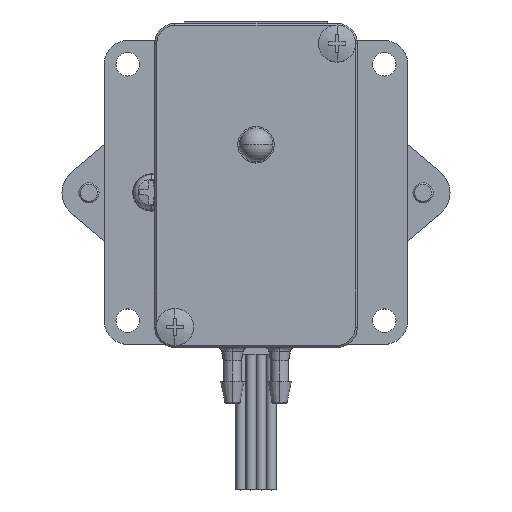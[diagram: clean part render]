
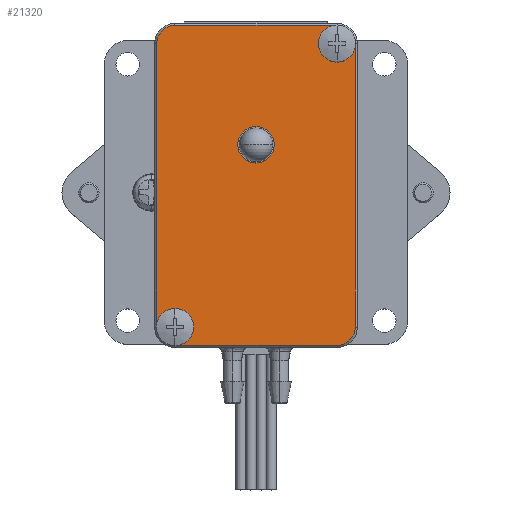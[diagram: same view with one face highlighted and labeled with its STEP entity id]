
A CAD part, top view. The second image highlights one B-rep face of the part: STEP entity #21320.
In plain terms, the highlighted planar face has unit normal (0, 0, 1).
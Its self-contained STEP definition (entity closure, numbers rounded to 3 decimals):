
#337 = CARTESIAN_POINT ( 'NONE',  ( 0., 0., 2.5 ) ) ;
#360 = DIRECTION ( 'NONE',  ( 1., 0., 0. ) ) ;
#534 = CARTESIAN_POINT ( 'NONE',  ( -14.7, -27., 2.5 ) ) ;
#600 = EDGE_CURVE ( 'NONE', #14971, #11288, #13889, .T. ) ;
#751 = CARTESIAN_POINT ( 'NONE',  ( -12., 17.7, 2.5 ) ) ;
#869 = VERTEX_POINT ( 'NONE', #12155 ) ;
#934 = EDGE_CURVE ( 'NONE', #19398, #19901, #15445, .T. ) ;
#949 = VECTOR ( 'NONE', #5242, 1000. ) ;
#1149 = ORIENTED_EDGE ( 'NONE', *, *, #5996, .T. ) ;
#1234 = DIRECTION ( 'NONE',  ( -1., 0., 0. ) ) ;
#1891 = CARTESIAN_POINT ( 'NONE',  ( 10.5, 15., 2.5 ) ) ;
#1987 = CARTESIAN_POINT ( 'NONE',  ( 12., -27., 2.5 ) ) ;
#2036 = ORIENTED_EDGE ( 'NONE', *, *, #11757, .T. ) ;
#2075 = LINE ( 'NONE', #2774, #5547 ) ;
#2191 = CIRCLE ( 'NONE', #12695, 2.7 ) ;
#2326 = DIRECTION ( 'NONE',  ( 0., 0., 1. ) ) ;
#2398 = DIRECTION ( 'NONE',  ( 0., 0., 1. ) ) ;
#2599 = VERTEX_POINT ( 'NONE', #15514 ) ;
#2681 = CARTESIAN_POINT ( 'NONE',  ( -12., -27., 2.5 ) ) ;
#2774 = CARTESIAN_POINT ( 'NONE',  ( -14.7, -27., 2.5 ) ) ;
#3337 = CARTESIAN_POINT ( 'NONE',  ( 12., 17.7, 2.5 ) ) ;
#3846 = AXIS2_PLACEMENT_3D ( 'NONE', #5703, #18814, #360 ) ;
#3893 = DIRECTION ( 'NONE',  ( 0., 0., 1. ) ) ;
#4767 = EDGE_CURVE ( 'NONE', #11288, #5577, #2075, .T. ) ;
#4947 = CARTESIAN_POINT ( 'NONE',  ( 0., 0., 2.5 ) ) ;
#5242 = DIRECTION ( 'NONE',  ( 0., 1., 0. ) ) ;
#5547 = VECTOR ( 'NONE', #15784, 1000. ) ;
#5577 = VERTEX_POINT ( 'NONE', #534 ) ;
#5703 = CARTESIAN_POINT ( 'NONE',  ( 12., 15., 2.5 ) ) ;
#5996 = EDGE_CURVE ( 'NONE', #19901, #19398, #22872, .T. ) ;
#6154 = CIRCLE ( 'NONE', #6956, 2.7 ) ;
#6252 = DIRECTION ( 'NONE',  ( -1., 0., 0. ) ) ;
#6517 = CARTESIAN_POINT ( 'NONE',  ( 13.5, 15., 2.5 ) ) ;
#6767 = LINE ( 'NONE', #10666, #14072 ) ;
#6769 = FACE_BOUND ( 'NONE', #7191, .T. ) ;
#6898 = FACE_BOUND ( 'NONE', #7347, .T. ) ;
#6956 = AXIS2_PLACEMENT_3D ( 'NONE', #20519, #3893, #16770 ) ;
#6959 = ORIENTED_EDGE ( 'NONE', *, *, #4767, .T. ) ;
#7095 = DIRECTION ( 'NONE',  ( -1., 0., 0. ) ) ;
#7132 = EDGE_CURVE ( 'NONE', #8881, #14110, #12420, .T. ) ;
#7191 = EDGE_LOOP ( 'NONE', ( #7272, #1149 ) ) ;
#7272 = ORIENTED_EDGE ( 'NONE', *, *, #934, .T. ) ;
#7298 = DIRECTION ( 'NONE',  ( 0., 0., 1. ) ) ;
#7347 = EDGE_LOOP ( 'NONE', ( #16792, #16839 ) ) ;
#7439 = DIRECTION ( 'NONE',  ( -1., 0., 0. ) ) ;
#8219 = CIRCLE ( 'NONE', #12525, 2.7 ) ;
#8279 = ORIENTED_EDGE ( 'NONE', *, *, #600, .T. ) ;
#8326 = EDGE_CURVE ( 'NONE', #15924, #11791, #8219, .T. ) ;
#8404 = DIRECTION ( 'NONE',  ( 0., 0., 1. ) ) ;
#8507 = CIRCLE ( 'NONE', #22053, 2.7 ) ;
#8649 = EDGE_CURVE ( 'NONE', #15394, #20846, #6767, .T. ) ;
#8785 = CARTESIAN_POINT ( 'NONE',  ( 14.7, 15., 2.5 ) ) ;
#8809 = CARTESIAN_POINT ( 'NONE',  ( -12., 17.7, 2.5 ) ) ;
#8881 = VERTEX_POINT ( 'NONE', #1891 ) ;
#8959 = DIRECTION ( 'NONE',  ( 1., 0., 0. ) ) ;
#9166 = DIRECTION ( 'NONE',  ( 0., 0., 1. ) ) ;
#9238 = AXIS2_PLACEMENT_3D ( 'NONE', #9501, #15337, #7439 ) ;
#9254 = LINE ( 'NONE', #8785, #949 ) ;
#9412 = CARTESIAN_POINT ( 'NONE',  ( -14.7, 15., 2.5 ) ) ;
#9454 = CARTESIAN_POINT ( 'NONE',  ( -10.5, -27., 2.5 ) ) ;
#9501 = CARTESIAN_POINT ( 'NONE',  ( -12., -27., 2.5 ) ) ;
#9977 = VECTOR ( 'NONE', #7095, 1000. ) ;
#10102 = DIRECTION ( 'NONE',  ( -1., 0., 0. ) ) ;
#10266 = ORIENTED_EDGE ( 'NONE', *, *, #8326, .F. ) ;
#10666 = CARTESIAN_POINT ( 'NONE',  ( 12., -29.7, 2.5 ) ) ;
#10787 = FACE_BOUND ( 'NONE', #16402, .T. ) ;
#10797 = ORIENTED_EDGE ( 'NONE', *, *, #19576, .F. ) ;
#10855 = AXIS2_PLACEMENT_3D ( 'NONE', #2681, #15336, #10102 ) ;
#10909 = DIRECTION ( 'NONE',  ( 0., 0., -1. ) ) ;
#11288 = VERTEX_POINT ( 'NONE', #9412 ) ;
#11617 = CIRCLE ( 'NONE', #3846, 1.5 ) ;
#11757 = EDGE_CURVE ( 'NONE', #21743, #14971, #19964, .T. ) ;
#11791 = VERTEX_POINT ( 'NONE', #16807 ) ;
#11861 = CARTESIAN_POINT ( 'NONE',  ( 12., 15., 2.5 ) ) ;
#12155 = CARTESIAN_POINT ( 'NONE',  ( 14.7, 15., 2.5 ) ) ;
#12377 = CARTESIAN_POINT ( 'NONE',  ( -2.7, 0., 2.5 ) ) ;
#12420 = CIRCLE ( 'NONE', #23649, 1.5 ) ;
#12525 = AXIS2_PLACEMENT_3D ( 'NONE', #337, #2398, #16746 ) ;
#12695 = AXIS2_PLACEMENT_3D ( 'NONE', #11861, #17688, #6252 ) ;
#12901 = ORIENTED_EDGE ( 'NONE', *, *, #14844, .T. ) ;
#13285 = CARTESIAN_POINT ( 'NONE',  ( -12., -27., 2.5 ) ) ;
#13889 = CIRCLE ( 'NONE', #19679, 2.7 ) ;
#14072 = VECTOR ( 'NONE', #8959, 1000. ) ;
#14110 = VERTEX_POINT ( 'NONE', #6517 ) ;
#14239 = CARTESIAN_POINT ( 'NONE',  ( -13.5, -27., 2.5 ) ) ;
#14478 = DIRECTION ( 'NONE',  ( 1., 0., 0. ) ) ;
#14714 = ORIENTED_EDGE ( 'NONE', *, *, #16365, .T. ) ;
#14844 = EDGE_CURVE ( 'NONE', #5577, #15394, #15243, .T. ) ;
#14861 = AXIS2_PLACEMENT_3D ( 'NONE', #13285, #2326, #17039 ) ;
#14971 = VERTEX_POINT ( 'NONE', #751 ) ;
#15243 = CIRCLE ( 'NONE', #14861, 2.7 ) ;
#15336 = DIRECTION ( 'NONE',  ( 0., 0., -1. ) ) ;
#15337 = DIRECTION ( 'NONE',  ( 0., 0., -1. ) ) ;
#15394 = VERTEX_POINT ( 'NONE', #23309 ) ;
#15445 = CIRCLE ( 'NONE', #9238, 1.5 ) ;
#15514 = CARTESIAN_POINT ( 'NONE',  ( 14.7, -27., 2.5 ) ) ;
#15579 = CARTESIAN_POINT ( 'NONE',  ( 12., -29.7, 2.5 ) ) ;
#15784 = DIRECTION ( 'NONE',  ( 0., -1., 0. ) ) ;
#15924 = VERTEX_POINT ( 'NONE', #12377 ) ;
#16142 = DIRECTION ( 'NONE',  ( -1., 0., 0. ) ) ;
#16365 = EDGE_CURVE ( 'NONE', #2599, #869, #9254, .T. ) ;
#16402 = EDGE_LOOP ( 'NONE', ( #10797, #10266 ) ) ;
#16692 = DIRECTION ( 'NONE',  ( -1., 0., 0. ) ) ;
#16746 = DIRECTION ( 'NONE',  ( 1., 0., 0. ) ) ;
#16770 = DIRECTION ( 'NONE',  ( 1., 0., 0. ) ) ;
#16792 = ORIENTED_EDGE ( 'NONE', *, *, #19451, .F. ) ;
#16807 = CARTESIAN_POINT ( 'NONE',  ( 2.7, 0., 2.5 ) ) ;
#16839 = ORIENTED_EDGE ( 'NONE', *, *, #7132, .F. ) ;
#16923 = EDGE_LOOP ( 'NONE', ( #12901, #21713, #19774, #14714, #23694, #2036, #8279, #6959 ) ) ;
#17039 = DIRECTION ( 'NONE',  ( -1., 0., 0. ) ) ;
#17688 = DIRECTION ( 'NONE',  ( 0., 0., 1. ) ) ;
#18804 = EDGE_CURVE ( 'NONE', #869, #21743, #2191, .T. ) ;
#18814 = DIRECTION ( 'NONE',  ( 0., 0., 1. ) ) ;
#19398 = VERTEX_POINT ( 'NONE', #14239 ) ;
#19451 = EDGE_CURVE ( 'NONE', #14110, #8881, #11617, .T. ) ;
#19576 = EDGE_CURVE ( 'NONE', #11791, #15924, #6154, .T. ) ;
#19631 = PLANE ( 'NONE',  #21369 ) ;
#19679 = AXIS2_PLACEMENT_3D ( 'NONE', #23917, #7298, #1234 ) ;
#19774 = ORIENTED_EDGE ( 'NONE', *, *, #23973, .T. ) ;
#19901 = VERTEX_POINT ( 'NONE', #9454 ) ;
#19964 = LINE ( 'NONE', #8809, #9977 ) ;
#20519 = CARTESIAN_POINT ( 'NONE',  ( 0., 0., 2.5 ) ) ;
#20846 = VERTEX_POINT ( 'NONE', #15579 ) ;
#21320 = ADVANCED_FACE ( 'NONE', ( #10787, #23400, #6898, #6769 ), #19631, .F. ) ;
#21369 = AXIS2_PLACEMENT_3D ( 'NONE', #4947, #10909, #16142 ) ;
#21713 = ORIENTED_EDGE ( 'NONE', *, *, #8649, .T. ) ;
#21743 = VERTEX_POINT ( 'NONE', #3337 ) ;
#22053 = AXIS2_PLACEMENT_3D ( 'NONE', #1987, #9166, #16692 ) ;
#22872 = CIRCLE ( 'NONE', #10855, 1.5 ) ;
#23309 = CARTESIAN_POINT ( 'NONE',  ( -12., -29.7, 2.5 ) ) ;
#23400 = FACE_OUTER_BOUND ( 'NONE', #16923, .T. ) ;
#23649 = AXIS2_PLACEMENT_3D ( 'NONE', #23685, #8404, #14478 ) ;
#23685 = CARTESIAN_POINT ( 'NONE',  ( 12., 15., 2.5 ) ) ;
#23694 = ORIENTED_EDGE ( 'NONE', *, *, #18804, .T. ) ;
#23917 = CARTESIAN_POINT ( 'NONE',  ( -12., 15., 2.5 ) ) ;
#23973 = EDGE_CURVE ( 'NONE', #20846, #2599, #8507, .T. ) ;
